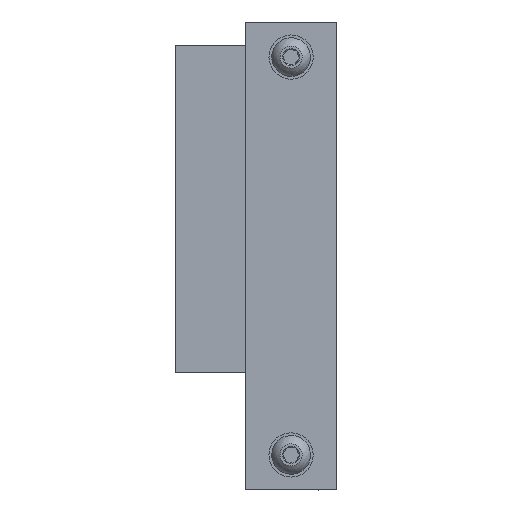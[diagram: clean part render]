
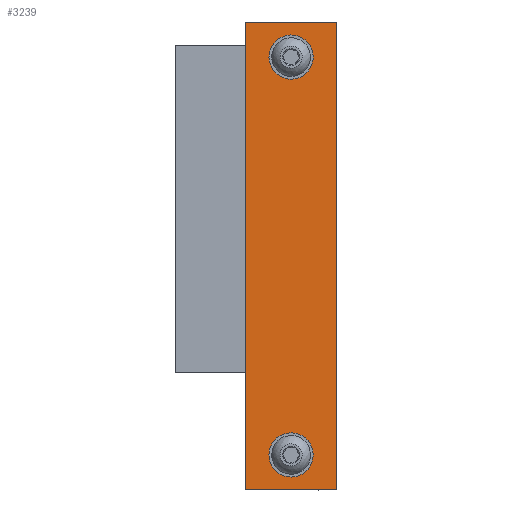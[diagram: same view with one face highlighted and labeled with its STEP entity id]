
A CAD part, left-side view. The second image highlights one B-rep face of the part: STEP entity #3239.
In plain terms, the highlighted planar face has unit normal (-1, 0, 0).
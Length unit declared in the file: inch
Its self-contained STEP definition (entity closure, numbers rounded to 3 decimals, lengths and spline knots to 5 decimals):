
#5 = DIRECTION ( 'NONE',  ( 1., 0., 0. ) ) ;
#94 = DIRECTION ( 'NONE',  ( 0., 0., -1. ) ) ;
#161 = CARTESIAN_POINT ( 'NONE',  ( -0.95, -0.975, -5. ) ) ;
#206 = CARTESIAN_POINT ( 'NONE',  ( -0.95, 0.975, 5. ) ) ;
#285 = DIRECTION ( 'NONE',  ( 0., 1., 0. ) ) ;
#472 = DIRECTION ( 'NONE',  ( 0., -1., 0. ) ) ;
#779 = CARTESIAN_POINT ( 'NONE',  ( -0.95, 0.975, 5. ) ) ;
#906 = FACE_OUTER_BOUND ( 'NONE', #2860, .T. ) ;
#1028 = DIRECTION ( 'NONE',  ( 0., 0., -1. ) ) ;
#1152 = DIRECTION ( 'NONE',  ( 1., 0., 0. ) ) ;
#1262 = EDGE_CURVE ( 'NONE', #1417, #3665, #1306, .T. ) ;
#1306 = LINE ( 'NONE', #206, #1443 ) ;
#1370 = AXIS2_PLACEMENT_3D ( 'NONE', #4998, #1152, #94 ) ;
#1404 = VERTEX_POINT ( 'NONE', #5288 ) ;
#1417 = VERTEX_POINT ( 'NONE', #4466 ) ;
#1443 = VECTOR ( 'NONE', #2312, 39.37008 ) ;
#1576 = VERTEX_POINT ( 'NONE', #5230 ) ;
#1720 = ORIENTED_EDGE ( 'NONE', *, *, #4087, .T. ) ;
#1897 = DIRECTION ( 'NONE',  ( 1., 0., 0. ) ) ;
#1928 = FACE_BOUND ( 'NONE', #2915, .T. ) ;
#1980 = LINE ( 'NONE', #3651, #4031 ) ;
#2043 = DIRECTION ( 'NONE',  ( 0., 0., -1. ) ) ;
#2193 = LINE ( 'NONE', #6548, #5634 ) ;
#2219 = ORIENTED_EDGE ( 'NONE', *, *, #4095, .T. ) ;
#2254 = EDGE_CURVE ( 'NONE', #6176, #6176, #3205, .T. ) ;
#2312 = DIRECTION ( 'NONE',  ( 0., 0., -1. ) ) ;
#2667 = LINE ( 'NONE', #5953, #5538 ) ;
#2735 = CARTESIAN_POINT ( 'NONE',  ( -0.95, 0., -4.25 ) ) ;
#2840 = ORIENTED_EDGE ( 'NONE', *, *, #2254, .T. ) ;
#2860 = EDGE_LOOP ( 'NONE', ( #2219, #3409, #6904, #5239 ) ) ;
#2915 = EDGE_LOOP ( 'NONE', ( #2840 ) ) ;
#3001 = CIRCLE ( 'NONE', #6976, 0.20079 ) ;
#3078 = PLANE ( 'NONE',  #5512 ) ;
#3205 = CIRCLE ( 'NONE', #1370, 0.20079 ) ;
#3239 = ADVANCED_FACE ( 'NONE', ( #1928, #6785, #906 ), #3078, .F. ) ;
#3409 = ORIENTED_EDGE ( 'NONE', *, *, #5932, .F. ) ;
#3651 = CARTESIAN_POINT ( 'NONE',  ( -0.95, 0.975, 5. ) ) ;
#3665 = VERTEX_POINT ( 'NONE', #5675 ) ;
#3694 = VERTEX_POINT ( 'NONE', #161 ) ;
#4031 = VECTOR ( 'NONE', #472, 39.37008 ) ;
#4087 = EDGE_CURVE ( 'NONE', #1404, #1404, #3001, .T. ) ;
#4095 = EDGE_CURVE ( 'NONE', #3665, #3694, #2193, .T. ) ;
#4466 = CARTESIAN_POINT ( 'NONE',  ( -0.95, 0.975, 5. ) ) ;
#4998 = CARTESIAN_POINT ( 'NONE',  ( -0.95, 0., 4.25 ) ) ;
#5230 = CARTESIAN_POINT ( 'NONE',  ( -0.95, -0.975, 5. ) ) ;
#5239 = ORIENTED_EDGE ( 'NONE', *, *, #1262, .T. ) ;
#5288 = CARTESIAN_POINT ( 'NONE',  ( -0.95, 0., -4.45079 ) ) ;
#5512 = AXIS2_PLACEMENT_3D ( 'NONE', #779, #1897, #285 ) ;
#5538 = VECTOR ( 'NONE', #1028, 39.37008 ) ;
#5634 = VECTOR ( 'NONE', #6404, 39.37008 ) ;
#5675 = CARTESIAN_POINT ( 'NONE',  ( -0.95, 0.975, -5. ) ) ;
#5932 = EDGE_CURVE ( 'NONE', #1576, #3694, #2667, .T. ) ;
#5953 = CARTESIAN_POINT ( 'NONE',  ( -0.95, -0.975, 5. ) ) ;
#5982 = EDGE_LOOP ( 'NONE', ( #1720 ) ) ;
#6037 = EDGE_CURVE ( 'NONE', #1417, #1576, #1980, .T. ) ;
#6176 = VERTEX_POINT ( 'NONE', #6213 ) ;
#6213 = CARTESIAN_POINT ( 'NONE',  ( -0.95, 0., 4.04921 ) ) ;
#6404 = DIRECTION ( 'NONE',  ( 0., -1., 0. ) ) ;
#6548 = CARTESIAN_POINT ( 'NONE',  ( -0.95, 0.975, -5. ) ) ;
#6785 = FACE_BOUND ( 'NONE', #5982, .T. ) ;
#6904 = ORIENTED_EDGE ( 'NONE', *, *, #6037, .F. ) ;
#6976 = AXIS2_PLACEMENT_3D ( 'NONE', #2735, #5, #2043 ) ;
